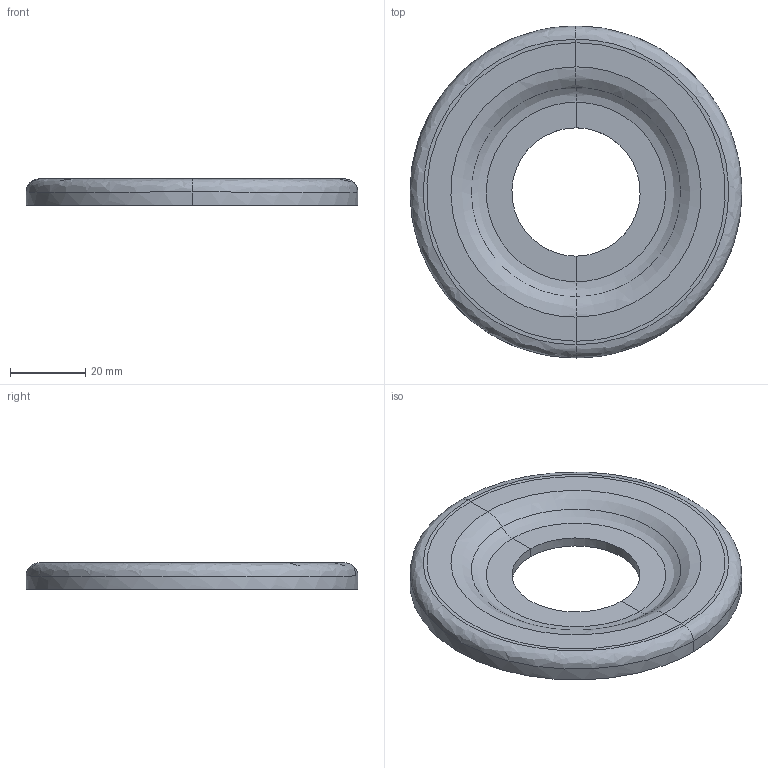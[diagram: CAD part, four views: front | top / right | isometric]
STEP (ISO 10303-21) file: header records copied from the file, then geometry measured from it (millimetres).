
FILE_DESCRIPTION (( 'STEP AP214' ), '1' );
FILE_NAME ('HP-100WJ-11.STEP', '2020-07-04T07:56:51', ( '' ), ( '' ), 'SwSTEP 2.0', 'SolidWorks 2010', '' );
FILE_SCHEMA (( 'AUTOMOTIVE_DESIGN' ));
Length unit declared in the file: millimetre
Products named in the file (1): HP-100WJ-11
Bounding box: 88 x 88 x 7 mm (x, y, z)
Volume: 16389.3 mm3; surface area: 13578.6 mm2
Topology: 1 solids, 1 shells, 32 faces, 64 edges, 32 vertices
Faces by surface type: bspline 32
Entity records: 4618 total; most frequent: CARTESIAN_POINT 4161, ORIENTED_EDGE 128, B_SPLINE_CURVE_WITH_KNOTS 64, EDGE_CURVE 64, ADVANCED_FACE 32, EDGE_LOOP 32, FACE_OUTER_BOUND 32, VERTEX_POINT 32
